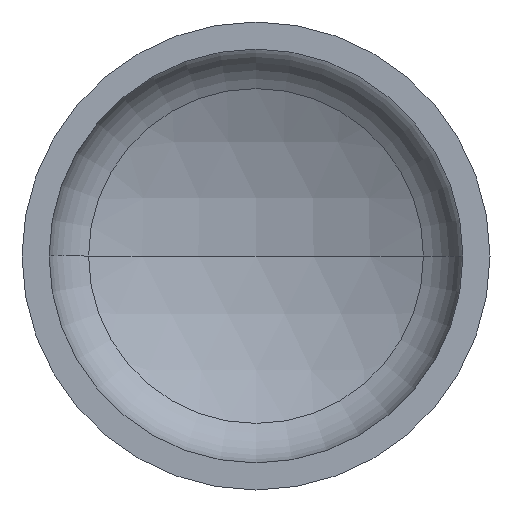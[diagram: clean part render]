
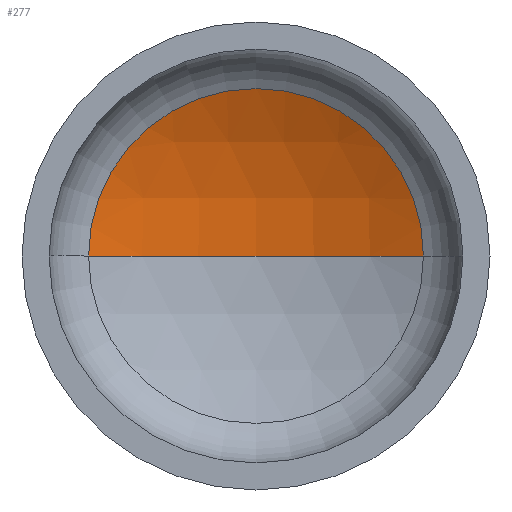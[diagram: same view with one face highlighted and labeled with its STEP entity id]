
A CAD part, front view. The second image highlights one B-rep face of the part: STEP entity #277.
In plain terms, the highlighted spherical face has radius 1440 mm.
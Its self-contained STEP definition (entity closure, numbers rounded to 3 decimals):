
#1 = AXIS2_PLACEMENT_3D ( 'NONE', #381, #239, #401 ) ;
#6 = AXIS2_PLACEMENT_3D ( 'NONE', #235, #355, #208 ) ;
#16 = AXIS2_PLACEMENT_3D ( 'NONE', #301, #66, #396 ) ;
#21 = ORIENTED_EDGE ( 'NONE', *, *, #365, .T. ) ;
#29 = AXIS2_PLACEMENT_3D ( 'NONE', #124, #340, #52 ) ;
#52 = DIRECTION ( 'NONE',  ( -1., 0., 0. ) ) ;
#55 = VERTEX_POINT ( 'NONE', #322 ) ;
#66 = DIRECTION ( 'NONE',  ( 0., -1., 0. ) ) ;
#92 = EDGE_LOOP ( 'NONE', ( #107, #21, #99 ) ) ;
#99 = ORIENTED_EDGE ( 'NONE', *, *, #326, .T. ) ;
#101 = VERTEX_POINT ( 'NONE', #368 ) ;
#107 = ORIENTED_EDGE ( 'NONE', *, *, #363, .F. ) ;
#124 = CARTESIAN_POINT ( 'NONE',  ( 0., -967.01, 0. ) ) ;
#181 = VERTEX_POINT ( 'NONE', #305 ) ;
#208 = DIRECTION ( 'NONE',  ( 1., 0., 0. ) ) ;
#235 = CARTESIAN_POINT ( 'NONE',  ( 0., -967.01, 0. ) ) ;
#239 = DIRECTION ( 'NONE',  ( 0., 0., -1. ) ) ;
#267 = FACE_OUTER_BOUND ( 'NONE', #92, .T. ) ;
#277 = ADVANCED_FACE ( 'NONE', ( #267 ), #338, .F. ) ;
#301 = CARTESIAN_POINT ( 'NONE',  ( 0., 320.968, 0. ) ) ;
#302 = CIRCLE ( 'NONE', #6, 1440. ) ;
#305 = CARTESIAN_POINT ( 'NONE',  ( -643.983, 320.968, 0. ) ) ;
#321 = CIRCLE ( 'NONE', #16, 643.983 ) ;
#322 = CARTESIAN_POINT ( 'NONE',  ( 0., 472.99, 0. ) ) ;
#326 = EDGE_CURVE ( 'NONE', #101, #181, #321, .T. ) ;
#338 = SPHERICAL_SURFACE ( 'NONE', #29, 1440. ) ;
#340 = DIRECTION ( 'NONE',  ( 0., 0., -1. ) ) ;
#355 = DIRECTION ( 'NONE',  ( 0., 0., 1. ) ) ;
#363 = EDGE_CURVE ( 'NONE', #55, #181, #302, .T. ) ;
#364 = CIRCLE ( 'NONE', #1, 1440. ) ;
#365 = EDGE_CURVE ( 'NONE', #55, #101, #364, .T. ) ;
#368 = CARTESIAN_POINT ( 'NONE',  ( 643.983, 320.968, 0. ) ) ;
#381 = CARTESIAN_POINT ( 'NONE',  ( 0., -967.01, 0. ) ) ;
#396 = DIRECTION ( 'NONE',  ( 1., 0., 0. ) ) ;
#401 = DIRECTION ( 'NONE',  ( -1., 0., 0. ) ) ;
